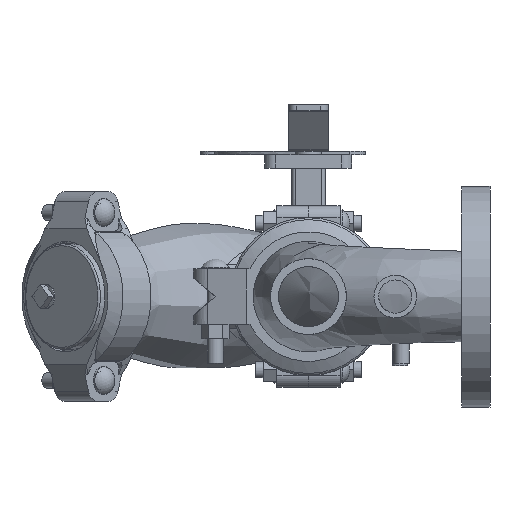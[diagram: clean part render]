
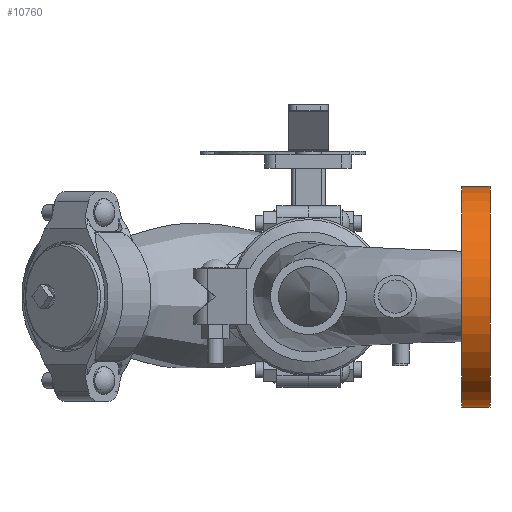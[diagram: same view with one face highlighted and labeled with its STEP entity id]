
A CAD part, front view. The second image highlights one B-rep face of the part: STEP entity #10760.
In plain terms, the highlighted cylindrical face has radius 88.9 mm (diameter 177.8 mm), a full revolution.
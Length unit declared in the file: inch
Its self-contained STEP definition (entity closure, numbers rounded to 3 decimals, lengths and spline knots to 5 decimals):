
#2022=CYLINDRICAL_SURFACE('',#11885,3.5);
#2250=FACE_BOUND('',#3696,.T.);
#2863=FACE_OUTER_BOUND('',#3695,.T.);
#3695=EDGE_LOOP('',(#9163));
#3696=EDGE_LOOP('',(#9164));
#4170=CIRCLE('',#11883,3.5);
#4172=CIRCLE('',#11886,3.5);
#5106=VERTEX_POINT('',#21291);
#5108=VERTEX_POINT('',#21296);
#6462=EDGE_CURVE('',#5106,#5106,#4170,.T.);
#6464=EDGE_CURVE('',#5108,#5108,#4172,.T.);
#9163=ORIENTED_EDGE('',*,*,#6462,.T.);
#9164=ORIENTED_EDGE('',*,*,#6464,.F.);
#10760=ADVANCED_FACE('',(#2863,#2250),#2022,.T.);
#11883=AXIS2_PLACEMENT_3D('',#21292,#14820,#14821);
#11885=AXIS2_PLACEMENT_3D('',#21295,#14824,#14825);
#11886=AXIS2_PLACEMENT_3D('',#21297,#14826,#14827);
#14820=DIRECTION('center_axis',(1.,0.,0.));
#14821=DIRECTION('ref_axis',(0.,0.,-1.));
#14824=DIRECTION('center_axis',(1.,0.,0.));
#14825=DIRECTION('ref_axis',(0.,1.,0.));
#14826=DIRECTION('center_axis',(1.,0.,0.));
#14827=DIRECTION('ref_axis',(0.,0.,-1.));
#21291=CARTESIAN_POINT('',(4.86,3.5,0.));
#21292=CARTESIAN_POINT('Origin',(4.86,0.,0.));
#21295=CARTESIAN_POINT('Origin',(5.305,0.,0.));
#21296=CARTESIAN_POINT('',(5.75,3.5,0.));
#21297=CARTESIAN_POINT('Origin',(5.75,0.,0.));
